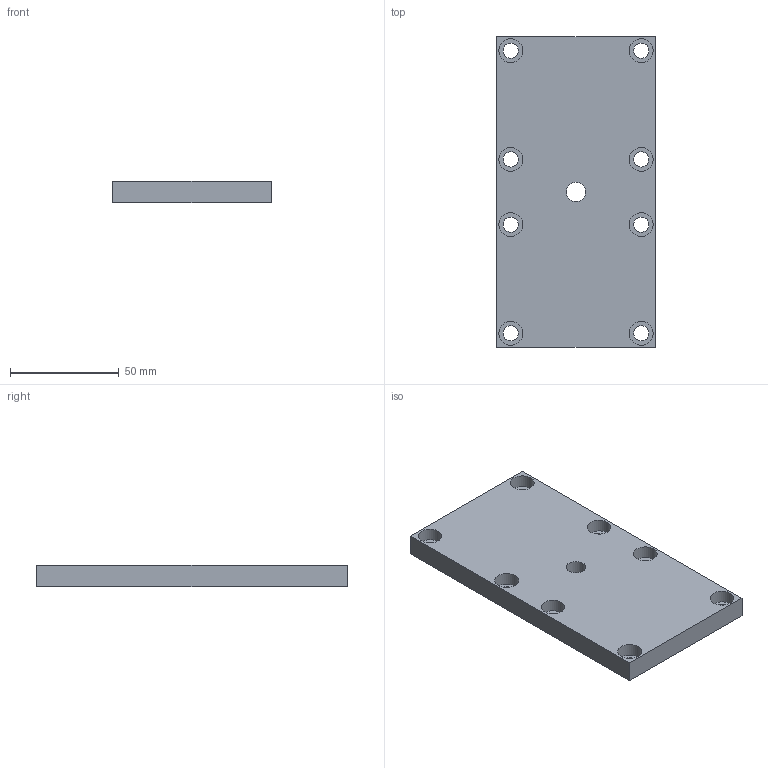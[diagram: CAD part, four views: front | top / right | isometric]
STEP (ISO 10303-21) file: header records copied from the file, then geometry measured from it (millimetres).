
FILE_DESCRIPTION(/* description */ (''),/* implementation_level */ '2;1');
FILE_NAME(/* name */ '094_isolante_manifold.stp',/* time_stamp */ '2020-01-13T11:23:00+01:00',/* author */ (''),/* organization */ (''),/* preprocessor_version */ 'ST-DEVELOPER v16.7',/* originating_system */ 'SIEMENS PLM Software NX 12.0',/* authorisation */ '');
FILE_SCHEMA (('AUTOMOTIVE_DESIGN { 1 0 10303 214 3 1 1 1 }'));
Length unit declared in the file: millimetre
Products named in the file (1): bez33CCFDAD1b4j
Bounding box: 73 x 143 x 10 mm (x, y, z)
Volume: 97960.7 mm3; surface area: 27100.2 mm2
Topology: 1 solids, 1 shells, 31 faces, 72 edges, 51 vertices
Faces by surface type: cylinder 17, plane 14
Full cylindrical faces by diameter (mm): 7 x8, 9 x1, 11 x8
Entity records: 814 total; most frequent: DIRECTION 144, CARTESIAN_POINT 120, ORIENTED_EDGE 92, EDGE_LOOP 74, FACE_BOUND 70, AXIS2_PLACEMENT_3D 66, EDGE_CURVE 46, VERTEX_POINT 42
